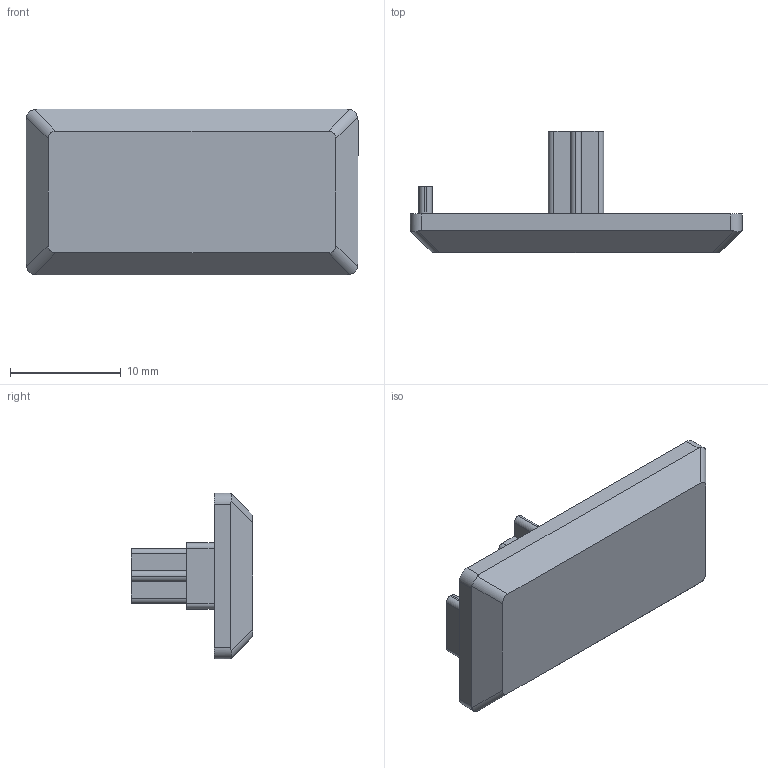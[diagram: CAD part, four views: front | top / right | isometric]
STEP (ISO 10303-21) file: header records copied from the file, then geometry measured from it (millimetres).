
FILE_DESCRIPTION (( 'STEP AP214' ), '1' );
FILE_NAME ('4019.STEP', '2017-08-10T06:21:49', ( '' ), ( '' ), 'SwSTEP 2.0', 'SolidWorks 2014', '' );
FILE_SCHEMA (( 'AUTOMOTIVE_DESIGN' ));
Length unit declared in the file: millimetre
Products named in the file (2): 4019
Bounding box: 30 x 11 x 15 mm (x, y, z)
Volume: 1069.2 mm3; surface area: 1406.8 mm2
Topology: 1 solids, 1 shells, 48 faces, 132 edges, 88 vertices
Faces by surface type: plane 28, cylinder 20
Entity records: 1573 total; most frequent: CARTESIAN_POINT 318, ORIENTED_EDGE 264, DIRECTION 244, EDGE_CURVE 132, VERTEX_POINT 88, LINE 88, VECTOR 88, AXIS2_PLACEMENT_3D 78
